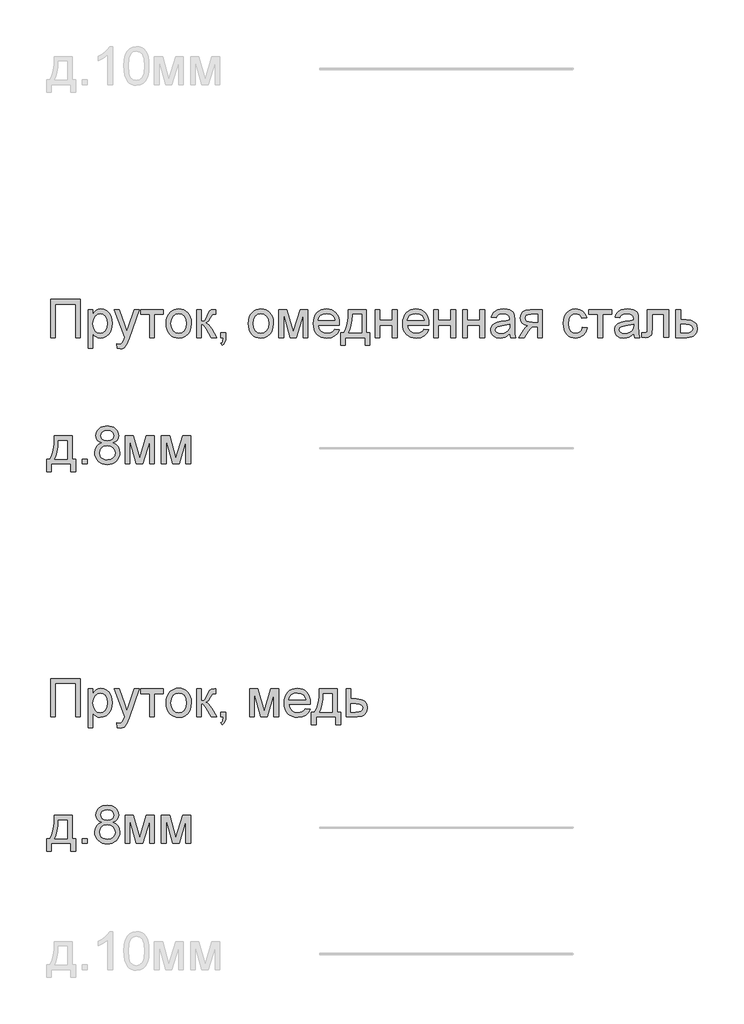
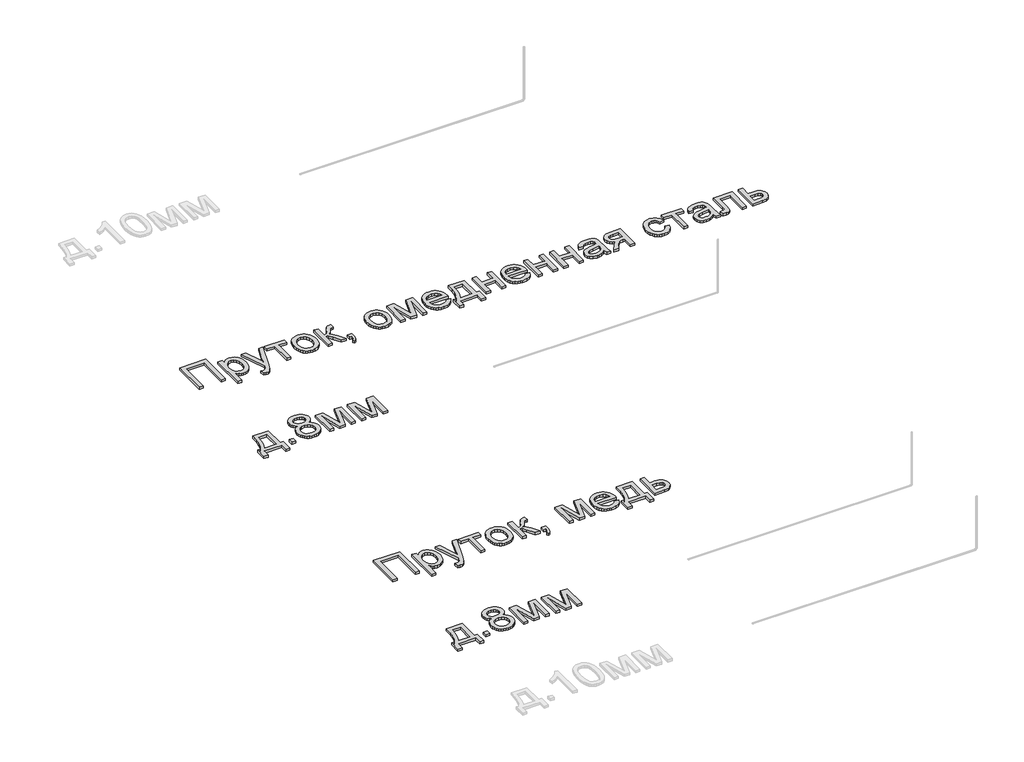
# One storey, part 94 of 124: 4 proxies.
"""IFC4 building model written with IfcOpenShell, lengths in millimetres."""

from ifc_helpers import new_model, si_unit, origin, origin_with_axes, place, context, project, spatial, polyline, outline, extrude, element, save

model = new_model("IFC4")

# Units and contexts
model_context = context("Model", 3, world=origin())
ifc_project = project(units=[si_unit("LENGTHUNIT", "METRE", prefix="MILLI")], contexts=[model_context])

# Site, building, storey
site = spatial("IfcSite", under=ifc_project)
building = spatial("IfcBuilding", under=site)
storey = spatial("IfcBuildingStorey", under=building, Name="Этаж 01", Elevation=0.0)

# Proxies
placement = place(None, origin())
element("IfcBuildingElementProxy", 1, Name="300", ObjectType="300", at=placement, inside=storey, context=model_context, shape_type="SweptSolid", body=[
    extrude(outline(polyline([(1299.8220677, -8218.1451728), (1535.2665446, -8218.1451728), (1535.2665446, -8519.5141033), (1497.5954283, -8519.5141033), (1497.5954283, -8255.8162891), (1337.493184, -8255.8162891), (1337.493184, -8519.5141033), (1299.8220677, -8519.5141033), (1299.8220677, -8218.1451728)])), origin_with_axes(), (0.0, 0.0, 1.0), 20.0),
    extrude(outline(polyline([(1596.4821086, -8604.2741149), (1596.4821086, -8298.196295), (1634.1532249, -8298.196295), (1634.1532249, -8335.1316473), (1646.4404835, -8316.9122915), (1660.1992702, -8303.8984659), (1676.2389252, -8296.0901705), (1695.3687889, -8293.4874054), (1720.8446171, -8297.1294372), (1743.1198719, -8308.0555324), (1761.2564542, -8325.6035036), (1774.3162651, -8349.1111631), (1782.2073339, -8376.8678596), (1784.8376901, -8407.1629419), (1781.867043, -8439.3802077), (1772.9551017, -8468.1945649), (1758.3869747, -8492.1436828), (1738.4477705, -8509.7652304), (1715.2252196, -8520.6085522), (1690.8070522, -8524.2229928), (1673.4890072, -8521.8041687), (1658.0287664, -8514.5476963), (1644.7942116, -8503.5940099), (1634.1532249, -8490.0835436), (1634.1532249, -8604.2741149), (1596.4821086, -8604.2741149)]), holes=[polyline([(1634.1532249, -8410.6210327), (1638.227518, -8444.3925998), (1650.4503973, -8468.0106239), (1668.4858121, -8481.9165634), (1689.9977118, -8486.5518765), (1711.8590993, -8481.7510165), (1730.3543666, -8467.3484363), (1742.963522, -8442.8658896), (1747.1665738, -8407.8251295), (1743.0646896, -8374.2375034), (1730.7590368, -8350.2883855), (1712.7512132, -8335.9409877), (1691.5428162, -8331.1585217), (1670.2516457, -8336.2444903), (1651.5540433, -8351.5023961), (1638.5034295, -8376.4539924), (1634.1532249, -8410.6210327)])]), origin_with_axes(), (0.0, 0.0, 1.0), 20.0),
    extrude(outline(polyline([(1827.217696, -8604.2741149), (1822.5088064, -8568.0009502), (1841.6386702, -8571.3118882), (1859.5177352, -8567.1548216), (1870.4806186, -8555.5665388), (1880.7813145, -8527.8282364), (1883.7243704, -8518.7047629), (1803.6732483, -8298.196295), (1843.4045038, -8298.196295), (1885.858086, -8421.0688814), (1900.6469422, -8470.2179159), (1915.4357984, -8426.8078405), (1959.0666031, -8298.196295), (1998.5035529, -8298.196295), (1921.4690631, -8524.811604), (1901.4562826, -8573.9606385), (1891.210769, -8589.6508056), (1879.6040921, -8600.5217186), (1866.121217, -8606.867683), (1850.2471089, -8608.9830045), (1827.217696, -8604.2741149)])), origin_with_axes(), (0.0, 0.0, 1.0), 20.0),
    extrude(outline(polyline([(2010.864388, -8298.196295), (2189.8021904, -8298.196295), (2189.8021904, -8335.8674113), (2119.1688474, -8335.8674113), (2119.1688474, -8519.5141033), (2081.497731, -8519.5141033), (2081.497731, -8335.8674113), (2010.864388, -8335.8674113), (2010.864388, -8298.196295)])), origin_with_axes(), (0.0, 0.0, 1.0), 20.0),
    extrude(outline(polyline([(2213.3466381, -8408.8551991), (2215.3837847, -8380.1925932), (2221.4952243, -8355.4939157), (2231.6809571, -8334.7591668), (2245.9409829, -8317.9883463), (2260.2975778, -8307.2691847), (2276.1440947, -8299.6126406), (2293.4805337, -8295.0187142), (2312.3068948, -8293.4874054), (2333.0899283, -8295.3521073), (2351.8818005, -8300.9462129), (2368.6825113, -8310.2697222), (2383.4920609, -8323.3226352), (2395.5792837, -8339.6634936), (2404.2130143, -8358.8508389), (2409.3932526, -8380.8846712), (2411.1199987, -8405.7649904), (2408.0665782, -8443.8223828), (2398.9063165, -8472.7930899), (2383.9059281, -8494.4889305), (2363.3321276, -8510.7217236), (2338.895566, -8520.8476755), (2312.3068948, -8524.2229928), (2291.2203587, -8522.3651887), (2272.2537426, -8516.7917765), (2255.4070465, -8507.5027561), (2240.6802704, -8494.4981276), (2228.7218063, -8477.9986201), (2220.1800462, -8458.2249629), (2215.0549901, -8435.1771559), (2213.3466381, -8408.8551991)]), holes=[polyline([(2251.0177544, -8408.7816227), (2255.3771561, -8442.8750866), (2268.455361, -8467.1644953), (2288.1370477, -8481.7050312), (2312.3068948, -8486.5518765), (2336.3663773, -8481.6774401), (2356.0112758, -8467.0541307), (2369.0894808, -8442.4428253), (2373.4488824, -8407.6044003), (2369.0618896, -8374.5042178), (2355.9009112, -8350.5459029), (2336.2284216, -8336.005367), (2312.3068948, -8331.1585217), (2288.1370477, -8335.9869729), (2268.455361, -8350.4723265), (2255.3771561, -8374.7065529), (2251.0177544, -8408.7816227)])]), origin_with_axes(), (0.0, 0.0, 1.0), 20.0),
    extrude(outline(polyline([(2453.5000046, -8298.196295), (2491.1711209, -8298.196295), (2491.1711209, -8392.3740857), (2506.493406, -8390.6818285), (2516.4078257, -8385.605057), (2525.1818113, -8372.3613052), (2537.0827939, -8346.1681071), (2554.262883, -8312.1390226), (2569.4196212, -8301.0657745), (2596.9739827, -8298.196295), (2604.1844698, -8298.196295), (2604.1844698, -8336.0881405), (2594.0309267, -8335.8674113), (2575.636827, -8339.8405368), (2562.6873807, -8364.6357833), (2547.4938543, -8391.4543807), (2526.1934868, -8404.587768), (2538.1312576, -8409.8898672), (2549.9586637, -8419.2478655), (2573.2823822, -8450.131559), (2613.6022489, -8519.5141033), (2570.7807846, -8519.5141033), (2531.2702583, -8451.603087), (2511.4046306, -8422.8715031), (2502.1156102, -8417.6567758), (2491.1711209, -8415.9185334), (2491.1711209, -8519.5141033), (2453.5000046, -8519.5141033), (2453.5000046, -8298.196295)])), origin_with_axes(), (0.0, 0.0, 1.0), 20.0),
    extrude(outline(polyline([(2646.5644756, -8519.5141033), (2646.5644756, -8481.842987), (2684.2355919, -8481.842987), (2684.2355919, -8519.5141033), (2682.5433348, -8541.0627911), (2677.4665632, -8558.0313482), (2668.7109717, -8571.0451737), (2655.9822547, -8580.7296673), (2646.5644756, -8566.6029986), (2654.7314559, -8559.7787876), (2660.3968387, -8550.3426145), (2665.3264574, -8519.5141033), (2646.5644756, -8519.5141033)])), origin_with_axes(), (0.0, 0.0, 1.0), 20.0),
    extrude(outline(polyline([(2863.1733944, -8408.8551991), (2865.2105409, -8380.1925932), (2871.3219806, -8355.4939157), (2881.5077133, -8334.7591668), (2895.7677392, -8317.9883463), (2910.124334, -8307.2691847), (2925.970851, -8299.6126406), (2943.30729, -8295.0187142), (2962.1336511, -8293.4874054), (2982.9166846, -8295.3521073), (3001.7085567, -8300.9462129), (3018.5092676, -8310.2697222), (3033.3188172, -8323.3226352), (3045.40604, -8339.6634936), (3054.0397705, -8358.8508389), (3059.2200089, -8380.8846712), (3060.946755, -8405.7649904), (3057.8933344, -8443.8223828), (3048.7330728, -8472.7930899), (3033.7326844, -8494.4889305), (3013.1588838, -8510.7217236), (2988.7223223, -8520.8476755), (2962.1336511, -8524.2229928), (2941.047115, -8522.3651887), (2922.0804989, -8516.7917765), (2905.2338028, -8507.5027561), (2890.5070266, -8494.4981276), (2878.5485625, -8477.9986201), (2870.0068025, -8458.2249629), (2864.8817464, -8435.1771559), (2863.1733944, -8408.8551991)]), holes=[polyline([(2900.8445107, -8408.7816227), (2905.2039123, -8442.8750866), (2918.2821173, -8467.1644953), (2937.963804, -8481.7050312), (2962.1336511, -8486.5518765), (2986.1931336, -8481.6774401), (3005.8380321, -8467.0541307), (3018.9162371, -8442.4428253), (3023.2756387, -8407.6044003), (3018.8886459, -8374.5042178), (3005.7276675, -8350.5459029), (2986.0551778, -8336.005367), (2962.1336511, -8331.1585217), (2937.963804, -8335.9869729), (2918.2821173, -8350.4723265), (2905.2039123, -8374.7065529), (2900.8445107, -8408.7816227)])]), origin_with_axes(), (0.0, 0.0, 1.0), 20.0),
    extrude(outline(polyline([(3103.3267608, -8298.196295), (3168.1475684, -8298.196295), (3218.1059433, -8475.3682638), (3271.9638674, -8298.196295), (3334.0623482, -8298.196295), (3334.0623482, -8519.5141033), (3296.3912319, -8519.5141033), (3296.3912319, -8341.3120648), (3242.2390022, -8519.5141033), (3192.7956621, -8519.5141033), (3140.9978772, -8332.7772025), (3140.9978772, -8519.5141033), (3103.3267608, -8519.5141033), (3103.3267608, -8298.196295)])), origin_with_axes(), (0.0, 0.0, 1.0), 20.0),
    extrude(outline(polyline([(3545.5209191, -8453.5896497), (3582.4562714, -8458.2985393), (3569.1481402, -8486.1288122), (3547.912152, -8506.932539), (3519.2265534, -8519.9003794), (3483.5695911, -8524.2229928), (3460.1952888, -8522.3582909), (3439.3685693, -8516.7641853), (3421.0894327, -8507.440676), (3405.3578789, -8494.387763), (3392.7073368, -8477.9687297), (3383.6712353, -8458.5468596), (3378.2495744, -8436.1221527), (3376.4423541, -8410.6946091), (3378.2679685, -8384.404842), (3383.7448117, -8361.2328748), (3392.8728837, -8341.1787076), (3405.6521845, -8324.2423402), (3421.3423516, -8310.7870562), (3439.2030224, -8301.1761391), (3459.2341971, -8295.4095888), (3481.4358755, -8293.4874054), (3502.9224833, -8295.4049903), (3522.3535504, -8301.157745), (3539.7290769, -8310.7456695), (3555.0490627, -8324.1687638), (3567.5547513, -8341.068343), (3576.487386, -8361.085722), (3581.8469668, -8384.220901), (3583.6334938, -8410.4738799), (3583.4127646, -8420.627423), (3414.1134704, -8420.627423), (3420.6341787, -8448.8255779), (3435.7817199, -8469.5557283), (3457.6431075, -8482.3028394), (3484.3053551, -8486.5518765), (3504.3549238, -8484.5837078), (3521.2407074, -8478.6792018), (3534.9627058, -8468.4704764), (3545.5209191, -8453.5896497)]), holes=[polyline([(3414.1134704, -8382.9563067), (3545.9623774, -8382.9563067), (3540.8672118, -8363.0538907), (3530.8792156, -8348.8168575), (3508.9166605, -8335.5731057), (3481.2887227, -8331.1585217), (3455.895668, -8334.6809918), (3434.8988031, -8345.2484021), (3420.3030849, -8361.7203185), (3414.1134704, -8382.9563067)])]), origin_with_axes(), (0.0, 0.0, 1.0), 20.0),
    extrude(outline(polyline([(3654.2668368, -8298.196295), (3795.533523, -8298.196295), (3795.533523, -8481.842987), (3823.7868602, -8481.842987), (3823.7868602, -8580.7296673), (3786.1157439, -8580.7296673), (3786.1157439, -8519.5141033), (3630.7223891, -8519.5141033), (3630.7223891, -8580.7296673), (3593.0512728, -8580.7296673), (3593.0512728, -8481.842987), (3616.5957205, -8481.842987), (3633.7114303, -8450.9133082), (3645.6951863, -8409.9956333), (3652.5469885, -8359.0899622), (3654.2668368, -8298.196295)]), holes=[polyline([(3687.2290636, -8335.8674113), (3684.1388548, -8381.9906164), (3678.3998957, -8421.6942807), (3670.0121862, -8454.9784043), (3658.9757264, -8481.842987), (3757.8624067, -8481.842987), (3757.8624067, -8335.8674113), (3687.2290636, -8335.8674113)])]), origin_with_axes(), (0.0, 0.0, 1.0), 20.0),
    extrude(outline(polyline([(3866.166866, -8298.196295), (3903.8379824, -8298.196295), (3903.8379824, -8382.9563067), (4002.7246627, -8382.9563067), (4002.7246627, -8298.196295), (4040.395779, -8298.196295), (4040.395779, -8519.5141033), (4002.7246627, -8519.5141033), (4002.7246627, -8420.627423), (3903.8379824, -8420.627423), (3903.8379824, -8519.5141033), (3866.166866, -8519.5141033), (3866.166866, -8298.196295)])), origin_with_axes(), (0.0, 0.0, 1.0), 20.0),
    extrude(outline(polyline([(4251.8543498, -8453.5896497), (4288.7897021, -8458.2985393), (4275.4815709, -8486.1288122), (4254.2455828, -8506.932539), (4225.5599842, -8519.9003794), (4189.9030218, -8524.2229928), (4166.5287195, -8522.3582909), (4145.7020001, -8516.7641853), (4127.4228634, -8507.440676), (4111.6913096, -8494.387763), (4099.0407675, -8477.9687297), (4090.004666, -8458.5468596), (4084.5830051, -8436.1221527), (4082.7757848, -8410.6946091), (4084.6013992, -8384.404842), (4090.0782424, -8361.2328748), (4099.2063144, -8341.1787076), (4111.9856152, -8324.2423402), (4127.6757823, -8310.7870562), (4145.5364532, -8301.1761391), (4165.5676278, -8295.4095888), (4187.7693062, -8293.4874054), (4209.255914, -8295.4049903), (4228.6869811, -8301.157745), (4246.0625076, -8310.7456695), (4261.3824935, -8324.1687638), (4273.888182, -8341.068343), (4282.8208167, -8361.085722), (4288.1803976, -8384.220901), (4289.9669245, -8410.4738799), (4289.7461953, -8420.627423), (4120.4469011, -8420.627423), (4126.9676095, -8448.8255779), (4142.1151506, -8469.5557283), (4163.9765382, -8482.3028394), (4190.6387858, -8486.5518765), (4210.6883545, -8484.5837078), (4227.5741381, -8478.6792018), (4241.2961365, -8468.4704764), (4251.8543498, -8453.5896497)]), holes=[polyline([(4120.4469011, -8382.9563067), (4252.2958082, -8382.9563067), (4247.2006426, -8363.0538907), (4237.2126464, -8348.8168575), (4215.2500913, -8335.5731057), (4187.6221534, -8331.1585217), (4162.2290987, -8334.6809918), (4141.2322338, -8345.2484021), (4126.6365157, -8361.7203185), (4120.4469011, -8382.9563067)])]), origin_with_axes(), (0.0, 0.0, 1.0), 20.0),
    extrude(outline(polyline([(4327.6380408, -8298.196295), (4365.3091571, -8298.196295), (4365.3091571, -8382.9563067), (4464.1958374, -8382.9563067), (4464.1958374, -8298.196295), (4501.8669537, -8298.196295), (4501.8669537, -8519.5141033), (4464.1958374, -8519.5141033), (4464.1958374, -8420.627423), (4365.3091571, -8420.627423), (4365.3091571, -8519.5141033), (4327.6380408, -8519.5141033), (4327.6380408, -8298.196295)])), origin_with_axes(), (0.0, 0.0, 1.0), 20.0),
    extrude(outline(polyline([(4558.3736282, -8298.196295), (4596.0447445, -8298.196295), (4596.0447445, -8382.9563067), (4694.9314248, -8382.9563067), (4694.9314248, -8298.196295), (4732.6025411, -8298.196295), (4732.6025411, -8519.5141033), (4694.9314248, -8519.5141033), (4694.9314248, -8420.627423), (4596.0447445, -8420.627423), (4596.0447445, -8519.5141033), (4558.3736282, -8519.5141033), (4558.3736282, -8298.196295)])), origin_with_axes(), (0.0, 0.0, 1.0), 20.0),
    extrude(outline(polyline([(4930.3759017, -8491.260766), (4912.3772751, -8506.6934157), (4893.8452196, -8516.7917765), (4874.3566709, -8522.3651887), (4853.4885647, -8524.2229928), (4822.007063, -8519.7532266), (4798.784512, -8506.3439278), (4784.4647054, -8485.9816594), (4779.6914365, -8460.652984), (4781.4940582, -8445.0363933), (4786.9019236, -8430.8545424), (4795.2436478, -8418.7144366), (4805.8478463, -8409.2230811), (4832.2249854, -8396.8622461), (4864.8193302, -8391.1968633), (4903.336575, -8385.237175), (4930.1551725, -8378.2474171), (4930.3759017, -8369.8597076), (4927.7823336, -8353.0475004), (4920.0016294, -8342.0478288), (4902.6008111, -8333.8808485), (4878.3573876, -8331.1585217), (4855.9165859, -8332.9703406), (4840.2448129, -8338.405797), (4829.5578409, -8348.4581726), (4822.0714423, -8364.1207485), (4784.400326, -8359.411859), (4790.9394285, -8338.8104672), (4800.6974984, -8322.6236594), (4814.5850437, -8310.2444303), (4833.5125724, -8301.0657745), (4856.6615469, -8295.3819977), (4883.2134299, -8293.4874054), (4908.680061, -8295.1612685), (4928.8675855, -8300.1828577), (4944.0887031, -8307.7336357), (4954.6561134, -8316.9950649), (4961.6642654, -8328.445392), (4966.207608, -8342.5628636), (4968.047018, -8375.5250903), (4968.047018, -8422.3932565), (4969.9600044, -8487.8394635), (4977.4647971, -8519.5141033), (4939.7936808, -8519.5141033), (4930.3759017, -8491.260766)]), holes=[polyline([(4930.3759017, -8415.9185334), (4869.6017961, -8427.4700281), (4837.1913923, -8433.5768692), (4822.5129007, -8443.5096831), (4817.3625528, -8458.0042337), (4820.167653, -8469.2062404), (4828.5829536, -8478.3848962), (4842.4245137, -8484.5101314), (4861.5083922, -8486.5518765), (4881.7419019, -8484.2985993), (4899.6209669, -8477.5387676), (4914.1155175, -8467.5783626), (4924.1954842, -8455.7233653), (4928.6652504, -8443.5096831), (4930.1551725, -8426.5871113), (4930.3759017, -8415.9185334)])]), origin_with_axes(), (0.0, 0.0, 1.0), 20.0),
    extrude(outline(polyline([(5189.3648263, -8298.196295), (5189.3648263, -8519.5141033), (5151.69371, -8519.5141033), (5151.69371, -8434.7540916), (5131.1658947, -8434.7540916), (5103.206863, -8439.5365575), (5092.0416445, -8449.9660121), (5076.9400886, -8471.6894439), (5046.9209178, -8519.5141033), (5003.3636895, -8519.5141033), (5041.1819586, -8459.0343033), (5057.8838012, -8437.3292655), (5073.2612686, -8427.6907573), (5047.509529, -8419.7996885), (5029.4097348, -8404.8084972), (5018.7043687, -8384.869293), (5015.1359134, -8362.1341857), (5020.0103498, -8336.3456579), (5034.6336591, -8315.9282071), (5058.4908065, -8302.629273), (5091.0667572, -8298.196295), (5189.3648263, -8298.196295)]), holes=[polyline([(5151.69371, -8335.8674113), (5102.0296406, -8335.8674113), (5076.3790685, -8338.0471121), (5061.8201386, -8344.5862146), (5055.0603069, -8354.0499789), (5052.8070297, -8365.0036653), (5056.1271647, -8379.3602601), (5066.0875697, -8389.3206652), (5084.4908665, -8395.1423977), (5113.1396769, -8397.0829753), (5151.69371, -8397.0829753), (5151.69371, -8335.8674113)])]), origin_with_axes(), (0.0, 0.0, 1.0), 20.0),
    extrude(outline(polyline([(5504.8604254, -8439.4629811), (5542.5315417, -8444.1718706), (5532.0285107, -8477.6767234), (5512.2916417, -8502.9962017), (5485.1787386, -8518.916295), (5452.5476056, -8524.2229928), (5431.4196828, -8522.3720865), (5412.4760593, -8516.8193676), (5395.7167352, -8507.5648362), (5381.1417104, -8494.6084922), (5369.3441947, -8478.1940574), (5360.9173977, -8458.5652537), (5355.8613195, -8435.7220811), (5354.1759601, -8409.6645395), (5357.0546368, -8376.1412927), (5365.6906666, -8347.0878121), (5380.2220054, -8323.6261379), (5400.7866089, -8306.87831), (5425.3887174, -8296.8351316), (5452.0325709, -8293.4874054), (5483.8635605, -8298.0859304), (5509.3117975, -8311.8815052), (5527.5679415, -8334.1383659), (5537.8226521, -8364.1207485), (5500.1515358, -8368.829638), (5493.3181278, -8352.3945099), (5482.6771411, -8340.613089), (5468.8171869, -8333.5221635), (5452.3268765, -8331.1585217), (5427.9822854, -8335.812229), (5408.6592836, -8349.7733507), (5396.0501282, -8373.796045), (5391.8470764, -8408.6344699), (5395.9581577, -8443.9419444), (5408.2914016, -8468.0474121), (5427.2649155, -8481.9257604), (5451.2968069, -8486.5518765), (5470.8037497, -8483.6640028), (5486.7974194, -8475.0003818), (5498.4316875, -8460.3402843), (5504.8604254, -8439.4629811)])), origin_with_axes(), (0.0, 0.0, 1.0), 20.0),
    extrude(outline(polyline([(5556.6582103, -8298.196295), (5735.5960127, -8298.196295), (5735.5960127, -8335.8674113), (5664.9626697, -8335.8674113), (5664.9626697, -8519.5141033), (5627.2915534, -8519.5141033), (5627.2915534, -8335.8674113), (5556.6582103, -8335.8674113), (5556.6582103, -8298.196295)])), origin_with_axes(), (0.0, 0.0, 1.0), 20.0),
    extrude(outline(polyline([(5909.8249257, -8491.260766), (5891.826299, -8506.6934157), (5873.2942435, -8516.7917765), (5853.8056948, -8522.3651887), (5832.9375887, -8524.2229928), (5801.4560869, -8519.7532266), (5778.233536, -8506.3439278), (5763.9137293, -8485.9816594), (5759.1404604, -8460.652984), (5760.9430822, -8445.0363933), (5766.3509475, -8430.8545424), (5774.6926718, -8418.7144366), (5785.2968703, -8409.2230811), (5811.6740093, -8396.8622461), (5844.2683541, -8391.1968633), (5882.785599, -8385.237175), (5909.6041965, -8378.2474171), (5909.8249257, -8369.8597076), (5907.2313576, -8353.0475004), (5899.4506534, -8342.0478288), (5882.049835, -8333.8808485), (5857.8064115, -8331.1585217), (5835.3656098, -8332.9703406), (5819.6938368, -8338.405797), (5809.0068649, -8348.4581726), (5801.5204663, -8364.1207485), (5763.84935, -8359.411859), (5770.3884524, -8338.8104672), (5780.1465224, -8322.6236594), (5794.0340677, -8310.2444303), (5812.9615963, -8301.0657745), (5836.1105709, -8295.3819977), (5862.6624539, -8293.4874054), (5888.129085, -8295.1612685), (5908.3166095, -8300.1828577), (5923.537727, -8307.7336357), (5934.1051373, -8316.9950649), (5941.1132893, -8328.445392), (5945.656632, -8342.5628636), (5947.496042, -8375.5250903), (5947.496042, -8422.3932565), (5949.4090283, -8487.8394635), (5956.913821, -8519.5141033), (5919.2427047, -8519.5141033), (5909.8249257, -8491.260766)]), holes=[polyline([(5909.8249257, -8415.9185334), (5849.0508201, -8427.4700281), (5816.6404163, -8433.5768692), (5801.9619247, -8443.5096831), (5796.8115767, -8458.0042337), (5799.6166769, -8469.2062404), (5808.0319776, -8478.3848962), (5821.8735377, -8484.5101314), (5840.9574162, -8486.5518765), (5861.1909259, -8484.2985993), (5879.0699909, -8477.5387676), (5893.5645415, -8467.5783626), (5903.6445081, -8455.7233653), (5908.1142744, -8443.5096831), (5909.6041965, -8426.5871113), (5909.8249257, -8415.9185334)])]), origin_with_axes(), (0.0, 0.0, 1.0), 20.0),
    extrude(outline(polyline([(6018.129385, -8298.196295), (6187.6494084, -8298.196295), (6187.6494084, -8519.2933741), (6149.9782921, -8519.2933741), (6149.9782921, -8335.8674113), (6055.8005013, -8335.8674113), (6055.8005013, -8441.4495439), (6053.2621156, -8490.15712), (6048.5072408, -8501.1843829), (6039.319388, -8510.7217236), (6025.3766603, -8517.3160083), (6006.3571612, -8519.5141033), (5975.7493792, -8517.6011169), (5975.7493792, -8481.842987), (5992.5983746, -8481.842987), (6009.6313109, -8479.5253304), (6016.4371279, -8472.1676905), (6018.129385, -8439.3158283), (6018.129385, -8298.196295)])), origin_with_axes(), (0.0, 0.0, 1.0), 20.0),
    extrude(outline(polyline([(6244.1560829, -8298.196295), (6281.8271992, -8298.196295), (6281.8271992, -8378.2474171), (6325.2372746, -8378.2474171), (6362.8716027, -8382.9655037), (6378.0191439, -8388.8631119), (6390.7202697, -8397.1197635), (6400.7634482, -8407.4503497), (6407.9371471, -8419.5697622), (6413.6761062, -8449.1750658), (6408.7924728, -8476.131619), (6394.1415723, -8498.8759233), (6382.9096751, -8507.9051271), (6368.7485176, -8514.3545583), (6331.6384213, -8519.5141033), (6244.1560829, -8519.5141033), (6244.1560829, -8298.196295)]), holes=[polyline([(6281.8271992, -8481.842987), (6316.9967179, -8481.842987), (6344.2843649, -8479.8656212), (6362.4301443, -8473.9335241), (6372.6112785, -8463.8075721), (6376.0049899, -8449.2486422), (6373.4941953, -8436.9429894), (6365.9618115, -8426.0720765), (6349.8209889, -8418.4569192), (6321.4848783, -8415.9185334), (6281.8271992, -8415.9185334), (6281.8271992, -8481.842987)])]), origin_with_axes(), (0.0, 0.0, 1.0), 20.0),
])
element("IfcBuildingElementProxy", 2, Name="300", ObjectType="300", at=placement, inside=storey, context=model_context, shape_type="SweptSolid", body=[
    extrude(outline(polyline([(1328.0754049, -9298.196295), (1469.3420911, -9298.196295), (1469.3420911, -9481.842987), (1497.5954283, -9481.842987), (1497.5954283, -9580.7296673), (1459.924312, -9580.7296673), (1459.924312, -9519.5141033), (1304.5309572, -9519.5141033), (1304.5309572, -9580.7296673), (1266.8598409, -9580.7296673), (1266.8598409, -9481.842987), (1290.4042886, -9481.842987), (1307.5199984, -9450.9133082), (1319.5037544, -9409.9956333), (1326.3555566, -9359.0899622), (1328.0754049, -9298.196295)]), holes=[polyline([(1361.0376317, -9335.8674113), (1357.9474229, -9381.9906164), (1352.2084638, -9421.6942807), (1343.8207543, -9454.9784043), (1332.7842945, -9481.842987), (1431.6709748, -9481.842987), (1431.6709748, -9335.8674113), (1361.0376317, -9335.8674113)])]), origin_with_axes(), (0.0, 0.0, 1.0), 20.0),
    extrude(outline(polyline([(1549.3932132, -9519.5141033), (1549.3932132, -9481.842987), (1587.0643295, -9481.842987), (1587.0643295, -9519.5141033), (1549.3932132, -9519.5141033)])), origin_with_axes(), (0.0, 0.0, 1.0), 20.0),
    extrude(outline(polyline([(1703.1678872, -9353.525747), (1682.9987568, -9343.5929332), (1668.8444971, -9330.1284521), (1660.4843787, -9313.4082155), (1657.6976726, -9293.7081346), (1659.2151858, -9278.3444628), (1663.7677255, -9264.2591809), (1671.3552917, -9251.452289), (1681.9778843, -9239.9237869), (1695.1250671, -9230.3956433), (1710.2864038, -9223.5898263), (1746.651539, -9218.1451728), (1783.2374035, -9223.718585), (1798.5642871, -9230.6853503), (1811.913805, -9240.4388217), (1822.7295356, -9252.1926515), (1830.4550575, -9265.1604918), (1835.0903707, -9279.3423427), (1836.6354751, -9294.7382042), (1833.8855571, -9313.8036886), (1825.6358034, -9330.2388167), (1811.7942433, -9343.6205243), (1792.2689064, -9353.525747), (1815.4546692, -9365.4727148), (1832.3312557, -9383.0666712), (1842.6227545, -9405.4614877), (1846.0532541, -9431.8110356), (1844.3517999, -9450.6006085), (1839.2474372, -9467.8266829), (1830.7401661, -9483.4892589), (1818.8299865, -9497.5883363), (1804.1422978, -9509.2409985), (1787.3024995, -9517.5643287), (1768.3105915, -9522.5583268), (1747.1665738, -9524.2229928), (1726.0225562, -9522.551429), (1707.0306482, -9517.5367375), (1690.1908498, -9509.1789185), (1675.5031612, -9497.4779717), (1663.5929816, -9483.280026), (1655.0857104, -9467.4312098), (1649.9813478, -9449.9315231), (1648.2798935, -9430.780966), (1651.8483489, -9403.4105456), (1662.5537149, -9380.8961675), (1679.8441687, -9364.0103839), (1703.1678872, -9353.525747)]), holes=[polyline([(1695.3687889, -9294.8117806), (1698.707318, -9311.2561058), (1708.7229053, -9324.389493), (1725.1212453, -9332.9979317), (1747.6080322, -9335.8674113), (1769.5705873, -9333.0163258), (1785.7206069, -9324.4630694), (1795.6534208, -9311.7711406), (1798.9643587, -9296.5040378), (1795.5430562, -9280.6575208), (1785.2791485, -9267.5517248), (1768.9083997, -9258.750148), (1747.1665738, -9255.8162891), (1725.2867922, -9258.6857687), (1708.9436345, -9267.2942074), (1698.7625003, -9279.9125598), (1695.3687889, -9294.8117806)]), polyline([(1685.9510098, -9429.4565908), (1692.2417919, -9457.8202927), (1700.9513982, -9469.9879897), (1714.4986527, -9479.0470838), (1730.7222486, -9484.6756783), (1747.4608794, -9486.5518765), (1773.1022545, -9482.6063421), (1792.3424828, -9470.7697389), (1804.3722241, -9452.8446887), (1808.3821378, -9430.6338132), (1804.2434654, -9408.0458587), (1791.827448, -9389.7253354), (1772.1457613, -9377.5852295), (1746.2100806, -9373.5385276), (1720.9273905, -9377.5300472), (1701.8803002, -9389.5046062), (1689.9333324, -9407.4756416), (1685.9510098, -9429.4565908)])]), origin_with_axes(), (0.0, 0.0, 1.0), 20.0),
    extrude(outline(polyline([(1888.43326, -9298.196295), (1953.2540675, -9298.196295), (2003.2124425, -9475.3682638), (2057.0703666, -9298.196295), (2119.1688474, -9298.196295), (2119.1688474, -9519.5141033), (2081.497731, -9519.5141033), (2081.497731, -9341.3120648), (2027.3455014, -9519.5141033), (1977.9021612, -9519.5141033), (1926.1043763, -9332.7772025), (1926.1043763, -9519.5141033), (1888.43326, -9519.5141033), (1888.43326, -9298.196295)])), origin_with_axes(), (0.0, 0.0, 1.0), 20.0),
    extrude(outline(polyline([(2175.6755218, -9298.196295), (2240.4963294, -9298.196295), (2290.4547043, -9475.3682638), (2344.3126284, -9298.196295), (2406.4111092, -9298.196295), (2406.4111092, -9519.5141033), (2368.7399929, -9519.5141033), (2368.7399929, -9341.3120648), (2314.5877632, -9519.5141033), (2265.144423, -9519.5141033), (2213.3466381, -9332.7772025), (2213.3466381, -9519.5141033), (2175.6755218, -9519.5141033), (2175.6755218, -9298.196295)])), origin_with_axes(), (0.0, 0.0, 1.0), 20.0),
])
element("IfcBuildingElementProxy", 3, Name="300", ObjectType="300", at=placement, inside=storey, context=model_context, shape_type="SweptSolid", body=[
    extrude(outline(polyline([(1299.8220677, -11218.1451728), (1535.2665446, -11218.1451728), (1535.2665446, -11519.5141033), (1497.5954283, -11519.5141033), (1497.5954283, -11255.8162891), (1337.493184, -11255.8162891), (1337.493184, -11519.5141033), (1299.8220677, -11519.5141033), (1299.8220677, -11218.1451728)])), origin_with_axes(), (0.0, 0.0, 1.0), 20.0),
    extrude(outline(polyline([(1596.4821086, -11604.2741149), (1596.4821086, -11298.196295), (1634.1532249, -11298.196295), (1634.1532249, -11335.1316473), (1646.4404835, -11316.9122915), (1660.1992702, -11303.8984659), (1676.2389252, -11296.0901705), (1695.3687889, -11293.4874054), (1720.8446171, -11297.1294372), (1743.1198719, -11308.0555324), (1761.2564542, -11325.6035036), (1774.3162651, -11349.1111631), (1782.2073339, -11376.8678596), (1784.8376901, -11407.1629419), (1781.867043, -11439.3802077), (1772.9551017, -11468.1945649), (1758.3869747, -11492.1436828), (1738.4477705, -11509.7652304), (1715.2252196, -11520.6085522), (1690.8070522, -11524.2229928), (1673.4890072, -11521.8041687), (1658.0287664, -11514.5476963), (1644.7942116, -11503.5940099), (1634.1532249, -11490.0835436), (1634.1532249, -11604.2741149), (1596.4821086, -11604.2741149)]), holes=[polyline([(1634.1532249, -11410.6210327), (1638.227518, -11444.3925998), (1650.4503973, -11468.0106239), (1668.4858121, -11481.9165634), (1689.9977118, -11486.5518765), (1711.8590993, -11481.7510165), (1730.3543666, -11467.3484363), (1742.963522, -11442.8658896), (1747.1665738, -11407.8251295), (1743.0646896, -11374.2375034), (1730.7590368, -11350.2883855), (1712.7512132, -11335.9409877), (1691.5428162, -11331.1585217), (1670.2516457, -11336.2444903), (1651.5540433, -11351.5023961), (1638.5034295, -11376.4539924), (1634.1532249, -11410.6210327)])]), origin_with_axes(), (0.0, 0.0, 1.0), 20.0),
    extrude(outline(polyline([(1827.217696, -11604.2741149), (1822.5088064, -11568.0009502), (1841.6386702, -11571.3118882), (1859.5177352, -11567.1548216), (1870.4806186, -11555.5665388), (1880.7813145, -11527.8282364), (1883.7243704, -11518.7047629), (1803.6732483, -11298.196295), (1843.4045038, -11298.196295), (1885.858086, -11421.0688814), (1900.6469422, -11470.2179159), (1915.4357984, -11426.8078405), (1959.0666031, -11298.196295), (1998.5035529, -11298.196295), (1921.4690631, -11524.811604), (1901.4562826, -11573.9606385), (1891.210769, -11589.6508056), (1879.6040921, -11600.5217186), (1866.121217, -11606.867683), (1850.2471089, -11608.9830045), (1827.217696, -11604.2741149)])), origin_with_axes(), (0.0, 0.0, 1.0), 20.0),
    extrude(outline(polyline([(2010.864388, -11298.196295), (2189.8021904, -11298.196295), (2189.8021904, -11335.8674113), (2119.1688474, -11335.8674113), (2119.1688474, -11519.5141033), (2081.497731, -11519.5141033), (2081.497731, -11335.8674113), (2010.864388, -11335.8674113), (2010.864388, -11298.196295)])), origin_with_axes(), (0.0, 0.0, 1.0), 20.0),
    extrude(outline(polyline([(2213.3466381, -11408.8551991), (2215.3837847, -11380.1925932), (2221.4952243, -11355.4939157), (2231.6809571, -11334.7591668), (2245.9409829, -11317.9883463), (2260.2975778, -11307.2691847), (2276.1440947, -11299.6126406), (2293.4805337, -11295.0187142), (2312.3068948, -11293.4874054), (2333.0899283, -11295.3521073), (2351.8818005, -11300.9462129), (2368.6825113, -11310.2697222), (2383.4920609, -11323.3226352), (2395.5792837, -11339.6634936), (2404.2130143, -11358.8508389), (2409.3932526, -11380.8846712), (2411.1199987, -11405.7649904), (2408.0665782, -11443.8223828), (2398.9063165, -11472.7930899), (2383.9059281, -11494.4889305), (2363.3321276, -11510.7217236), (2338.895566, -11520.8476755), (2312.3068948, -11524.2229928), (2291.2203587, -11522.3651887), (2272.2537426, -11516.7917765), (2255.4070465, -11507.5027561), (2240.6802704, -11494.4981276), (2228.7218063, -11477.9986201), (2220.1800462, -11458.2249629), (2215.0549901, -11435.1771559), (2213.3466381, -11408.8551991)]), holes=[polyline([(2251.0177544, -11408.7816227), (2255.3771561, -11442.8750866), (2268.455361, -11467.1644953), (2288.1370477, -11481.7050312), (2312.3068948, -11486.5518765), (2336.3663773, -11481.6774401), (2356.0112758, -11467.0541307), (2369.0894808, -11442.4428253), (2373.4488824, -11407.6044003), (2369.0618896, -11374.5042178), (2355.9009112, -11350.5459029), (2336.2284216, -11336.005367), (2312.3068948, -11331.1585217), (2288.1370477, -11335.9869729), (2268.455361, -11350.4723265), (2255.3771561, -11374.7065529), (2251.0177544, -11408.7816227)])]), origin_with_axes(), (0.0, 0.0, 1.0), 20.0),
    extrude(outline(polyline([(2453.5000046, -11298.196295), (2491.1711209, -11298.196295), (2491.1711209, -11392.3740857), (2506.493406, -11390.6818285), (2516.4078257, -11385.605057), (2525.1818113, -11372.3613052), (2537.0827939, -11346.1681071), (2554.262883, -11312.1390226), (2569.4196212, -11301.0657745), (2596.9739827, -11298.196295), (2604.1844698, -11298.196295), (2604.1844698, -11336.0881405), (2594.0309267, -11335.8674113), (2575.636827, -11339.8405368), (2562.6873807, -11364.6357833), (2547.4938543, -11391.4543807), (2526.1934868, -11404.587768), (2538.1312576, -11409.8898672), (2549.9586637, -11419.2478655), (2573.2823822, -11450.131559), (2613.6022489, -11519.5141033), (2570.7807846, -11519.5141033), (2531.2702583, -11451.603087), (2511.4046306, -11422.8715031), (2502.1156102, -11417.6567758), (2491.1711209, -11415.9185334), (2491.1711209, -11519.5141033), (2453.5000046, -11519.5141033), (2453.5000046, -11298.196295)])), origin_with_axes(), (0.0, 0.0, 1.0), 20.0),
    extrude(outline(polyline([(2646.5644756, -11519.5141033), (2646.5644756, -11481.842987), (2684.2355919, -11481.842987), (2684.2355919, -11519.5141033), (2682.5433348, -11541.0627911), (2677.4665632, -11558.0313482), (2668.7109717, -11571.0451737), (2655.9822547, -11580.7296673), (2646.5644756, -11566.6029986), (2654.7314559, -11559.7787876), (2660.3968387, -11550.3426145), (2665.3264574, -11519.5141033), (2646.5644756, -11519.5141033)])), origin_with_axes(), (0.0, 0.0, 1.0), 20.0),
    extrude(outline(polyline([(2872.5911735, -11298.196295), (2937.411981, -11298.196295), (2987.370356, -11475.3682638), (3041.2282801, -11298.196295), (3103.3267608, -11298.196295), (3103.3267608, -11519.5141033), (3065.6556445, -11519.5141033), (3065.6556445, -11341.3120648), (3011.5034149, -11519.5141033), (2962.0600747, -11519.5141033), (2910.2622898, -11332.7772025), (2910.2622898, -11519.5141033), (2872.5911735, -11519.5141033), (2872.5911735, -11298.196295)])), origin_with_axes(), (0.0, 0.0, 1.0), 20.0),
    extrude(outline(polyline([(3314.7853317, -11453.5896497), (3351.720684, -11458.2985393), (3338.4125528, -11486.1288122), (3317.1765646, -11506.932539), (3288.4909661, -11519.9003794), (3252.8340037, -11524.2229928), (3229.4597014, -11522.3582909), (3208.632982, -11516.7641853), (3190.3538453, -11507.440676), (3174.6222915, -11494.387763), (3161.9717494, -11477.9687297), (3152.9356479, -11458.5468596), (3147.513987, -11436.1221527), (3145.7067667, -11410.6946091), (3147.5323811, -11384.404842), (3153.0092243, -11361.2328748), (3162.1372963, -11341.1787076), (3174.9165971, -11324.2423402), (3190.6067642, -11310.7870562), (3208.4674351, -11301.1761391), (3228.4986097, -11295.4095888), (3250.7002881, -11293.4874054), (3272.1868959, -11295.4049903), (3291.617963, -11301.157745), (3308.9934895, -11310.7456695), (3324.3134754, -11324.1687638), (3336.8191639, -11341.068343), (3345.7517986, -11361.085722), (3351.1113794, -11384.220901), (3352.8979064, -11410.4738799), (3352.6771772, -11420.627423), (3183.377883, -11420.627423), (3189.8985914, -11448.8255779), (3205.0461325, -11469.5557283), (3226.9075201, -11482.3028394), (3253.5697677, -11486.5518765), (3273.6193364, -11484.5837078), (3290.50512, -11478.6792018), (3304.2271184, -11468.4704764), (3314.7853317, -11453.5896497)]), holes=[polyline([(3183.377883, -11382.9563067), (3315.2267901, -11382.9563067), (3310.1316244, -11363.0538907), (3300.1436283, -11348.8168575), (3278.1810732, -11335.5731057), (3250.5531353, -11331.1585217), (3225.1600806, -11334.6809918), (3204.1632157, -11345.2484021), (3189.5674976, -11361.7203185), (3183.377883, -11382.9563067)])]), origin_with_axes(), (0.0, 0.0, 1.0), 20.0),
    extrude(outline(polyline([(3423.5312495, -11298.196295), (3564.7979356, -11298.196295), (3564.7979356, -11481.842987), (3593.0512728, -11481.842987), (3593.0512728, -11580.7296673), (3555.3801565, -11580.7296673), (3555.3801565, -11519.5141033), (3399.9868018, -11519.5141033), (3399.9868018, -11580.7296673), (3362.3156855, -11580.7296673), (3362.3156855, -11481.842987), (3385.8601331, -11481.842987), (3402.975843, -11450.9133082), (3414.959599, -11409.9956333), (3421.8114011, -11359.0899622), (3423.5312495, -11298.196295)]), holes=[polyline([(3456.4934762, -11335.8674113), (3453.4032675, -11381.9906164), (3447.6643083, -11421.6942807), (3439.2765988, -11454.9784043), (3428.240139, -11481.842987), (3527.1268193, -11481.842987), (3527.1268193, -11335.8674113), (3456.4934762, -11335.8674113)])]), origin_with_axes(), (0.0, 0.0, 1.0), 20.0),
    extrude(outline(polyline([(3635.4312787, -11298.196295), (3673.102395, -11298.196295), (3673.102395, -11378.2474171), (3716.5124704, -11378.2474171), (3754.1467985, -11382.9655037), (3769.2943397, -11388.8631119), (3781.9954656, -11397.1197635), (3792.038644, -11407.4503497), (3799.2123429, -11419.5697622), (3804.951302, -11449.1750658), (3800.0676686, -11476.131619), (3785.4167681, -11498.8759233), (3774.1848709, -11507.9051271), (3760.0237134, -11514.3545583), (3722.9136171, -11519.5141033), (3635.4312787, -11519.5141033), (3635.4312787, -11298.196295)]), holes=[polyline([(3673.102395, -11481.842987), (3708.2719137, -11481.842987), (3735.5595607, -11479.8656212), (3753.7053401, -11473.9335241), (3763.8864743, -11463.8075721), (3767.2801857, -11449.2486422), (3764.7693911, -11436.9429894), (3757.2370073, -11426.0720765), (3741.0961847, -11418.4569192), (3712.7600741, -11415.9185334), (3673.102395, -11415.9185334), (3673.102395, -11481.842987)])]), origin_with_axes(), (0.0, 0.0, 1.0), 20.0),
])
element("IfcBuildingElementProxy", 4, Name="300", ObjectType="300", at=placement, inside=storey, context=model_context, shape_type="SweptSolid", body=[
    extrude(outline(polyline([(1328.0754049, -12298.196295), (1469.3420911, -12298.196295), (1469.3420911, -12481.842987), (1497.5954283, -12481.842987), (1497.5954283, -12580.7296673), (1459.924312, -12580.7296673), (1459.924312, -12519.5141033), (1304.5309572, -12519.5141033), (1304.5309572, -12580.7296673), (1266.8598409, -12580.7296673), (1266.8598409, -12481.842987), (1290.4042886, -12481.842987), (1307.5199984, -12450.9133082), (1319.5037544, -12409.9956333), (1326.3555566, -12359.0899622), (1328.0754049, -12298.196295)]), holes=[polyline([(1361.0376317, -12335.8674113), (1357.9474229, -12381.9906164), (1352.2084638, -12421.6942807), (1343.8207543, -12454.9784043), (1332.7842945, -12481.842987), (1431.6709748, -12481.842987), (1431.6709748, -12335.8674113), (1361.0376317, -12335.8674113)])]), origin_with_axes(), (0.0, 0.0, 1.0), 20.0),
    extrude(outline(polyline([(1549.3932132, -12519.5141033), (1549.3932132, -12481.842987), (1587.0643295, -12481.842987), (1587.0643295, -12519.5141033), (1549.3932132, -12519.5141033)])), origin_with_axes(), (0.0, 0.0, 1.0), 20.0),
    extrude(outline(polyline([(1703.1678872, -12353.525747), (1682.9987568, -12343.5929332), (1668.8444971, -12330.1284521), (1660.4843787, -12313.4082155), (1657.6976726, -12293.7081346), (1659.2151858, -12278.3444628), (1663.7677255, -12264.2591809), (1671.3552917, -12251.452289), (1681.9778843, -12239.9237869), (1695.1250671, -12230.3956433), (1710.2864038, -12223.5898263), (1746.651539, -12218.1451728), (1783.2374035, -12223.718585), (1798.5642871, -12230.6853503), (1811.913805, -12240.4388217), (1822.7295356, -12252.1926515), (1830.4550575, -12265.1604918), (1835.0903707, -12279.3423427), (1836.6354751, -12294.7382042), (1833.8855571, -12313.8036886), (1825.6358034, -12330.2388167), (1811.7942433, -12343.6205243), (1792.2689064, -12353.525747), (1815.4546692, -12365.4727148), (1832.3312557, -12383.0666712), (1842.6227545, -12405.4614877), (1846.0532541, -12431.8110356), (1844.3517999, -12450.6006085), (1839.2474372, -12467.8266829), (1830.7401661, -12483.4892589), (1818.8299865, -12497.5883363), (1804.1422978, -12509.2409985), (1787.3024995, -12517.5643287), (1768.3105915, -12522.5583268), (1747.1665738, -12524.2229928), (1726.0225562, -12522.551429), (1707.0306482, -12517.5367375), (1690.1908498, -12509.1789185), (1675.5031612, -12497.4779717), (1663.5929816, -12483.280026), (1655.0857104, -12467.4312098), (1649.9813478, -12449.9315231), (1648.2798935, -12430.780966), (1651.8483489, -12403.4105456), (1662.5537149, -12380.8961675), (1679.8441687, -12364.0103839), (1703.1678872, -12353.525747)]), holes=[polyline([(1695.3687889, -12294.8117806), (1698.707318, -12311.2561058), (1708.7229053, -12324.389493), (1725.1212453, -12332.9979317), (1747.6080322, -12335.8674113), (1769.5705873, -12333.0163258), (1785.7206069, -12324.4630694), (1795.6534208, -12311.7711406), (1798.9643587, -12296.5040378), (1795.5430562, -12280.6575208), (1785.2791485, -12267.5517248), (1768.9083997, -12258.750148), (1747.1665738, -12255.8162891), (1725.2867922, -12258.6857687), (1708.9436345, -12267.2942074), (1698.7625003, -12279.9125598), (1695.3687889, -12294.8117806)]), polyline([(1685.9510098, -12429.4565908), (1692.2417919, -12457.8202927), (1700.9513982, -12469.9879897), (1714.4986527, -12479.0470838), (1730.7222486, -12484.6756783), (1747.4608794, -12486.5518765), (1773.1022545, -12482.6063421), (1792.3424828, -12470.7697389), (1804.3722241, -12452.8446887), (1808.3821378, -12430.6338132), (1804.2434654, -12408.0458587), (1791.827448, -12389.7253354), (1772.1457613, -12377.5852295), (1746.2100806, -12373.5385276), (1720.9273905, -12377.5300472), (1701.8803002, -12389.5046062), (1689.9333324, -12407.4756416), (1685.9510098, -12429.4565908)])]), origin_with_axes(), (0.0, 0.0, 1.0), 20.0),
    extrude(outline(polyline([(1888.43326, -12298.196295), (1953.2540675, -12298.196295), (2003.2124425, -12475.3682638), (2057.0703666, -12298.196295), (2119.1688474, -12298.196295), (2119.1688474, -12519.5141033), (2081.497731, -12519.5141033), (2081.497731, -12341.3120648), (2027.3455014, -12519.5141033), (1977.9021612, -12519.5141033), (1926.1043763, -12332.7772025), (1926.1043763, -12519.5141033), (1888.43326, -12519.5141033), (1888.43326, -12298.196295)])), origin_with_axes(), (0.0, 0.0, 1.0), 20.0),
    extrude(outline(polyline([(2175.6755218, -12298.196295), (2240.4963294, -12298.196295), (2290.4547043, -12475.3682638), (2344.3126284, -12298.196295), (2406.4111092, -12298.196295), (2406.4111092, -12519.5141033), (2368.7399929, -12519.5141033), (2368.7399929, -12341.3120648), (2314.5877632, -12519.5141033), (2265.144423, -12519.5141033), (2213.3466381, -12332.7772025), (2213.3466381, -12519.5141033), (2175.6755218, -12519.5141033), (2175.6755218, -12298.196295)])), origin_with_axes(), (0.0, 0.0, 1.0), 20.0),
])

save(model, "model.ifc")
